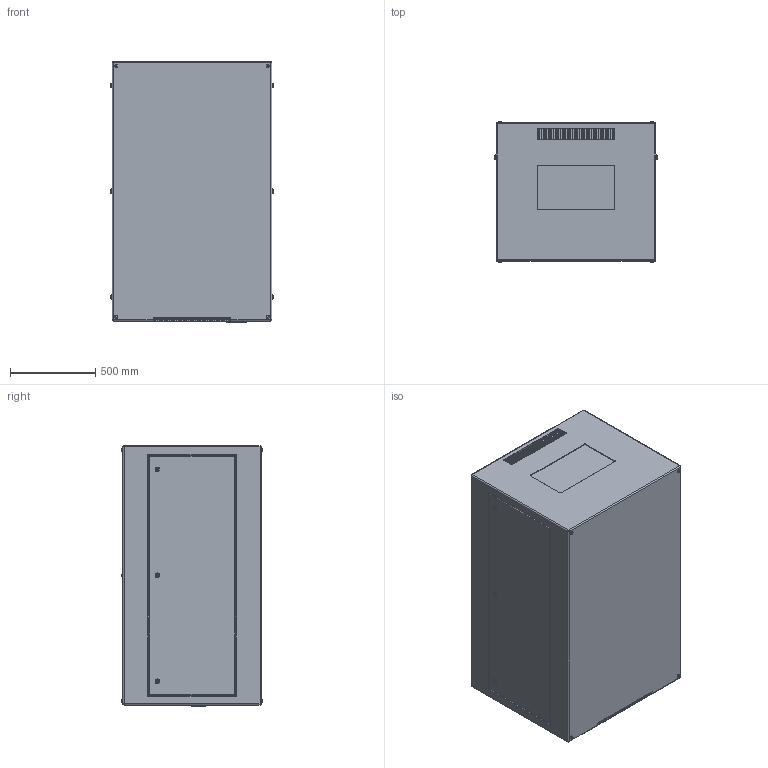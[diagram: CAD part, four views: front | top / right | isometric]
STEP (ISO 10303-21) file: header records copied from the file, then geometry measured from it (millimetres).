
FILE_DESCRIPTION (( 'STEP AP214' ), '1' );
FILE_NAME ('Zen 57.514.L R11.STEP', '2022-09-15T21:17:54', ( '' ), ( '' ), 'SwSTEP 2.0', 'SolidWorks 2020', '' );
FILE_SCHEMA (( 'AUTOMOTIVE_DESIGN' ));
Length unit declared in the file: inch
Products named in the file (1): Zen 57.514.L R11
Bounding box: 952.5 x 827.5 x 1531.62 mm (x, y, z)
Volume: 1162497972.9 mm3; surface area: 7269099.7 mm2
Topology: 1 solids, 7 shells, 1134 faces, 2856 edges, 1758 vertices
Faces by surface type: plane 518, cylinder 490, sphere 74, torus 52
Entity records: 37528 total; most frequent: CARTESIAN_POINT 6243, DIRECTION 5988, ORIENTED_EDGE 5564, EDGE_CURVE 2782, AXIS2_PLACEMENT_3D 2167, VERTEX_POINT 1758, VECTOR 1654, LINE 1654
